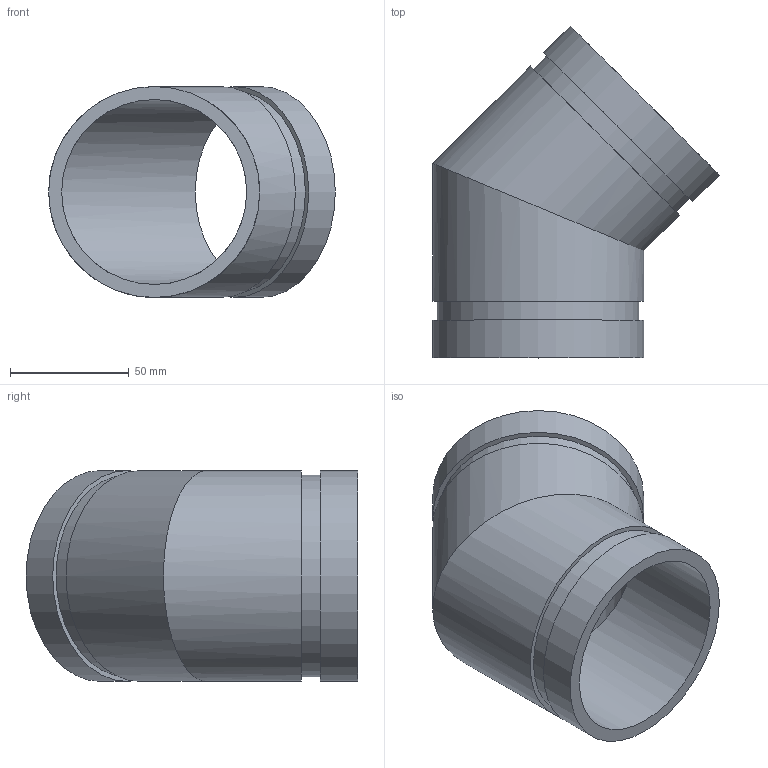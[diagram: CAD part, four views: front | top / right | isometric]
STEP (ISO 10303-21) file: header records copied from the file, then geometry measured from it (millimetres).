
FILE_DESCRIPTION(/* description */ ('VIC 45 DEG FABRICATED ELBOW No 11 SWS (OGS)','CAx-IF Rec.Pracs.---Representation and Presentation of Product Manufacturing Information (PMI)---4.0---2014-10-13'),/* implementation_level */ '2;1');
FILE_NAME(/* name */ 'C:\Users\kkamble\AppData\Roaming\Autodesk\ApplicationPlugins\Back Up\Victaulic_IPS_Elbow 45 Deg_No 11 SWS (OGS)\Victaulic_IPS_Elbow 45 Deg_No 11 SWS (OGS)_3 (80).stp',/* time_stamp */ '2020-09-16T22:14:29+06:00',/* author */ ('cgray'),/* organization */ ('Victaulic'),/* preprocessor_version */ 'ST-DEVELOPER v17.2',/* originating_system */ 'Autodesk Inventor 2019',/* authorisation */ '');
FILE_SCHEMA (('AP242_MANAGED_MODEL_BASED_3D_ENGINEERING_MIM_LF { 1 0 10303 442 1 1 4 }'));
Length unit declared in the file: inch
Products named in the file (1): 11 SWS-03.0
Bounding box: 120.78 x 139.83 x 88.9 mm (x, y, z)
Volume: 173988.4 mm3; surface area: 71402.6 mm2
Topology: 1 solids, 1 shells, 14 faces, 30 edges, 22 vertices
Faces by surface type: cylinder 8, plane 6
Full cylindrical faces by diameter (mm): 77.927 x2, 84.938 x2, 88.9 x4
Entity records: 554 total; most frequent: DIRECTION 108, CARTESIAN_POINT 84, ORIENTED_EDGE 60, AXIS2_PLACEMENT_3D 50, EDGE_CURVE 30, VERTEX_POINT 22, EDGE_LOOP 20, CIRCLE 16
